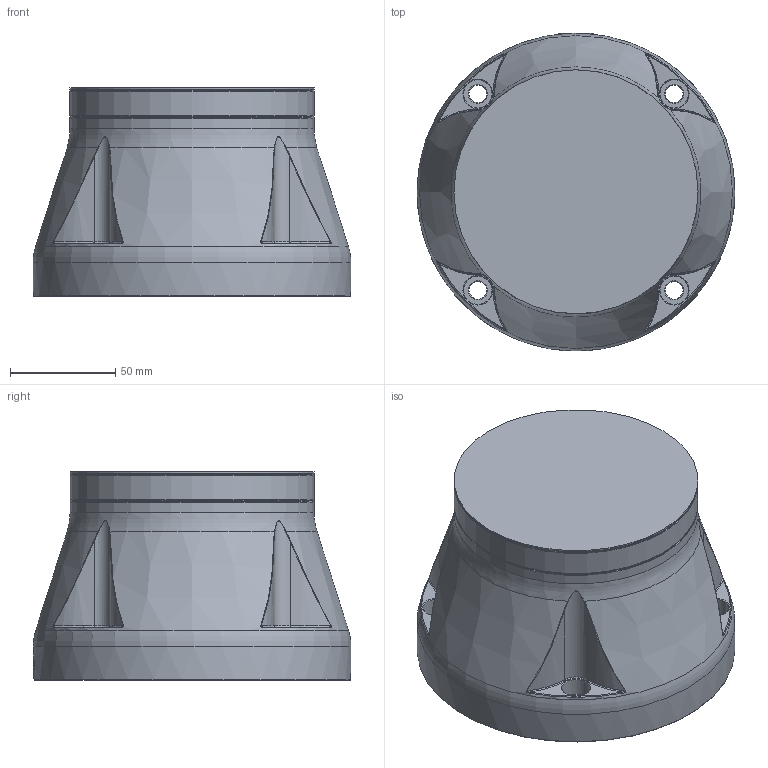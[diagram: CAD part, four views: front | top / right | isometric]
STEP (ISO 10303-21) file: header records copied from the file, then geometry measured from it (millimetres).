
FILE_DESCRIPTION(/* description */ (''),/* implementation_level */ '2;1');
FILE_NAME(/* name */ 'C:\Users\d030454\Desktop\Ur5\ur5e.cojt\ur5e.cojt\GROUND.stp',/* time_stamp */ '2022-06-17T14:49:49+02:00',/* author */ ('d030454'),/* organization */ (''),/* preprocessor_version */ 'ST-DEVELOPER v18.1',/* originating_system */ 'Autodesk Inventor 2020',/* authorisation */ '');
FILE_SCHEMA (('AUTOMOTIVE_DESIGN { 1 0 10303 214 3 1 1 }'));
Length unit declared in the file: millimetre
Products named in the file (4): GROUND; Base_UR5_STEP; Base_UR5_STEP_1; Base_UR5_STEP_2
Assembly tree (3 placements, depth 3):
  GROUND
    Base_UR5_STEP
      Base_UR5_STEP_1
      Base_UR5_STEP_2
Bounding box: 150.99 x 151.1 x 99.1 mm (x, y, z)
Volume: 656600.7 mm3; surface area: 107217.9 mm2
Topology: 2 solids, 10 shells, 604 faces, 1560 edges, 976 vertices
Faces by surface type: cylinder 177, plane 169, cone 127, torus 62, bspline 57, sphere 12
Full cylindrical faces by diameter (mm): 2.5 x4, 3 x3, 3.4 x3, 5.5 x3, 8 x1, 8.4 x4, 9.5 x1, 10 x1, 12.1 x2, 12.6 x1, 13.5 x4, 13.6 x1, 14.6 x1, 15.8 x1, 29 x1, 113.7 x2, 116 x2
Entity records: 26412 total; most frequent: CARTESIAN_POINT 10802, DIRECTION 3292, ORIENTED_EDGE 3094, EDGE_CURVE 1547, AXIS2_PLACEMENT_3D 1361, VERTEX_POINT 976, CIRCLE 804, EDGE_LOOP 653
